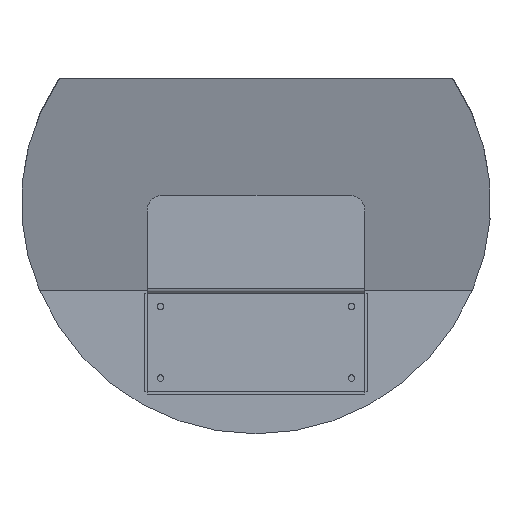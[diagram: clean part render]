
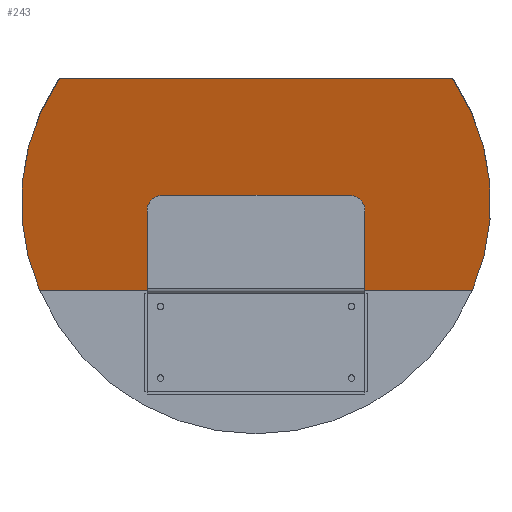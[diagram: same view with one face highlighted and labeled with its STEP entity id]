
A CAD part, front view. The second image highlights one B-rep face of the part: STEP entity #243.
In plain terms, the highlighted planar face has unit normal (0, -0.966, -0.259) as drawn and (0, 0.966, -0.259) by its records, which use the part's own axes.
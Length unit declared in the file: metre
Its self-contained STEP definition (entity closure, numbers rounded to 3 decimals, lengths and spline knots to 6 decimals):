
#243 = ADVANCED_FACE( '', ( #424 ), #425, .T. );
#424 = FACE_OUTER_BOUND( '', #947, .T. );
#425 = PLANE( '', #948 );
#947 = EDGE_LOOP( '', ( #1505, #1506, #1507, #1508, #1509, #1510 ) );
#948 = AXIS2_PLACEMENT_3D( '', #1511, #1512, #1513 );
#1505 = ORIENTED_EDGE( '', *, *, #1761, .T. );
#1506 = ORIENTED_EDGE( '', *, *, #1752, .T. );
#1507 = ORIENTED_EDGE( '', *, *, #1765, .T. );
#1508 = ORIENTED_EDGE( '', *, *, #1766, .T. );
#1509 = ORIENTED_EDGE( '', *, *, #1767, .T. );
#1510 = ORIENTED_EDGE( '', *, *, #1768, .T. );
#1511 = CARTESIAN_POINT( '', ( 0., 0.016299, 0.087896 ) );
#1512 = DIRECTION( '', ( 0., 0.966, -0.259 ) );
#1513 = DIRECTION( '', ( 0., 0.259, 0.966 ) );
#1752 = EDGE_CURVE( '', #2039, #2037, #2040, .T. );
#1761 = EDGE_CURVE( '', #2047, #2039, #2053, .T. );
#1765 = EDGE_CURVE( '', #2037, #2059, #2060, .T. );
#1766 = EDGE_CURVE( '', #2059, #2061, #2062, .T. );
#1767 = EDGE_CURVE( '', #2061, #2063, #2064, .T. );
#1768 = EDGE_CURVE( '', #2063, #2047, #2065, .T. );
#2037 = VERTEX_POINT( '', #2642 );
#2039 = VERTEX_POINT( '', #2645 );
#2040 = CIRCLE( '', #2646, 0.002 );
#2047 = VERTEX_POINT( '', #2671 );
#2053 = CIRCLE( '', #2685, 0.1475 );
#2059 = VERTEX_POINT( '', #2692 );
#2060 = LINE( '', #2693, #2694 );
#2061 = VERTEX_POINT( '', #2695 );
#2062 = CIRCLE( '', #2696, 0.002 );
#2063 = VERTEX_POINT( '', #2697 );
#2064 = CIRCLE( '', #2698, 0.1475 );
#2065 = LINE( '', #2699, #2700 );
#2642 = CARTESIAN_POINT( '', ( -0.122507, 0.037134, 0.165653 ) );
#2645 = CARTESIAN_POINT( '', ( -0.124191, 0.036896, 0.164764 ) );
#2646 = AXIS2_PLACEMENT_3D( '', #2930, #2931, #2932 );
#2671 = CARTESIAN_POINT( '', ( -0.136035, 0.001543, 0.032824 ) );
#2685 = AXIS2_PLACEMENT_3D( '', #2940, #2941, #2942 );
#2692 = CARTESIAN_POINT( '', ( 0.122507, 0.037134, 0.165653 ) );
#2693 = CARTESIAN_POINT( '', ( 0.123596, 0.037134, 0.165653 ) );
#2694 = VECTOR( '', #2950, 1. );
#2695 = CARTESIAN_POINT( '', ( 0.124191, 0.036896, 0.164764 ) );
#2696 = AXIS2_PLACEMENT_3D( '', #2951, #2952, #2953 );
#2697 = CARTESIAN_POINT( '', ( 0.136035, 0.001543, 0.032824 ) );
#2698 = AXIS2_PLACEMENT_3D( '', #2954, #2955, #2956 );
#2699 = CARTESIAN_POINT( '', ( 0.111162, 0.001543, 0.032824 ) );
#2700 = VECTOR( '', #2957, 1. );
#2930 = CARTESIAN_POINT( '', ( -0.122507, 0.036617, 0.163722 ) );
#2931 = DIRECTION( '', ( 0., 0.966, -0.259 ) );
#2932 = DIRECTION( '', ( 0., 0.259, 0.966 ) );
#2940 = CARTESIAN_POINT( '', ( 0., 0.016299, 0.087896 ) );
#2941 = DIRECTION( '', ( 0., 0.966, -0.259 ) );
#2942 = DIRECTION( '', ( 0., 0.259, 0.966 ) );
#2950 = DIRECTION( '', ( 1., 0., 0. ) );
#2951 = CARTESIAN_POINT( '', ( 0.122507, 0.036617, 0.163722 ) );
#2952 = DIRECTION( '', ( 0., 0.966, -0.259 ) );
#2953 = DIRECTION( '', ( 0., 0.259, 0.966 ) );
#2954 = CARTESIAN_POINT( '', ( 0., 0.016299, 0.087896 ) );
#2955 = DIRECTION( '', ( 0., 0.966, -0.259 ) );
#2956 = DIRECTION( '', ( 0., 0.259, 0.966 ) );
#2957 = DIRECTION( '', ( -1., 0., 0. ) );
